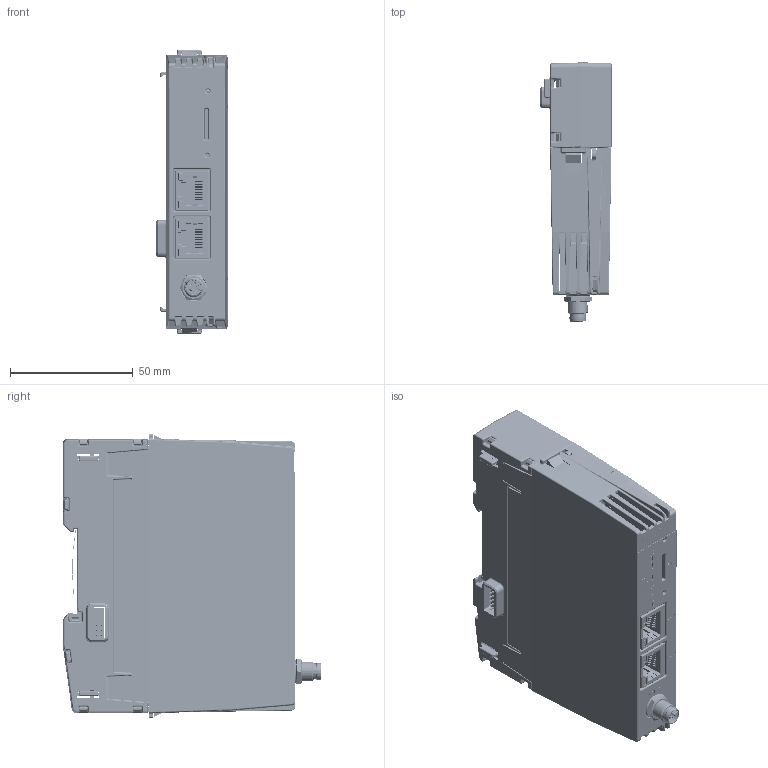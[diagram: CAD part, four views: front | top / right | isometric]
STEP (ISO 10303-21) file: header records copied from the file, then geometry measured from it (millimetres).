
FILE_DESCRIPTION(/* description */ (''),/* implementation_level */ '2;1');
FILE_NAME(/* name */ 'C:\Users\Public\Documents\Autodesk\Inventor 2023\MP32A_REVD_Simplified+BB61R.stp',/* time_stamp */ '2024-11-20T09:40:06+01:00',/* author */ ('asho'),/* organization */ (''),/* preprocessor_version */ 'ST-DEVELOPER v19',/* originating_system */ 'Autodesk Inventor 2023',/* authorisation */ '');
FILE_SCHEMA (('AUTOMOTIVE_DESIGN { 1 0 10303 214 3 1 1 }'));
Products named in the file (1): MP32A_REVD_Simplified+BB61R
Bounding box: 28.9 x 105.31 x 115.5 mm (x, y, z)
Volume: 113977.8 mm3; surface area: 88526.9 mm2
Topology: 8 solids, 9 shells, 8358 faces, 23256 edges, 14776 vertices
Faces by surface type: plane 5301, cylinder 2104, bspline 641, sphere 188, torus 78, cone 46
Full cylindrical faces by diameter (mm): 0.3 x39, 0.5 x2, 0.7 x36, 0.75 x2, 0.8 x17, 0.85 x24, 0.9 x28, 1 x8, 1.02 x8, 1.1 x1, 1.29 x1, 1.3 x4, 1.4 x4, 1.6 x3, 1.7 x4, 1.981 x1, 2.35 x2, 2.5 x1, 3 x3, 3.25 x2, 5.8 x1, 6.5 x1, 6.9 x1, 6.917 x1, 7.896 x1, 8.416 x2, 9 x1, 10.69 x1
Entity records: 295293 total; most frequent: CARTESIAN_POINT 72816, ORIENTED_EDGE 46154, DIRECTION 42457, EDGE_CURVE 23077, LINE 16999, VECTOR 16999, VERTEX_POINT 14776, AXIS2_PLACEMENT_3D 12729
